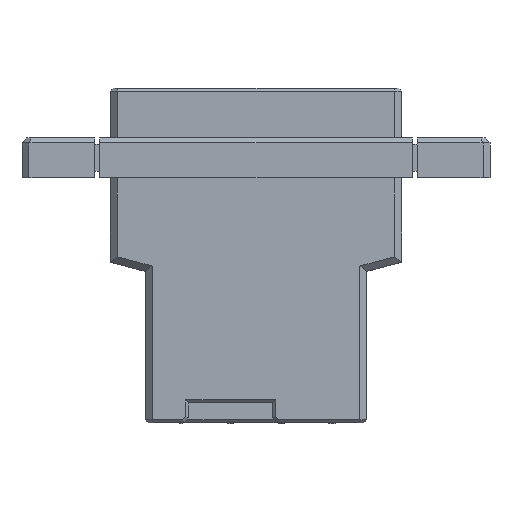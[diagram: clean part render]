
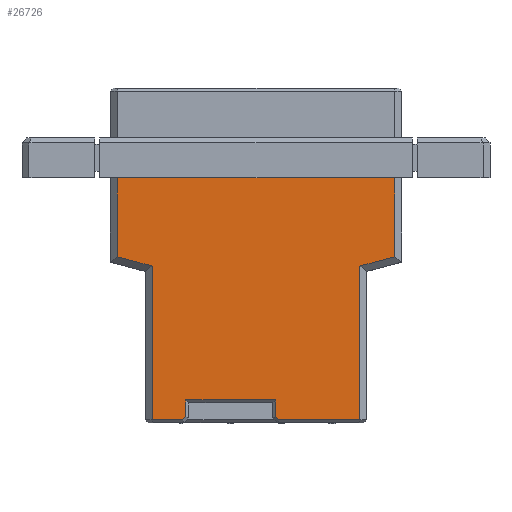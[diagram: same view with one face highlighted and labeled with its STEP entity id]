
A CAD part, front view. The second image highlights one B-rep face of the part: STEP entity #26726.
In plain terms, the highlighted planar face has unit normal (0, -1, 0).
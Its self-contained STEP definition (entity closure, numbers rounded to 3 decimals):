
#699 = CARTESIAN_POINT ( 'NONE',  ( -14.204, -4.675, -16.849 ) ) ;
#815 = EDGE_CURVE ( 'NONE', #25401, #10830, #19533, .T. ) ;
#1288 = VERTEX_POINT ( 'NONE', #19937 ) ;
#1337 = CARTESIAN_POINT ( 'NONE',  ( -10.42, -4.675, -18.4 ) ) ;
#2030 = EDGE_CURVE ( 'NONE', #15278, #25401, #18515, .T. ) ;
#2164 = VECTOR ( 'NONE', #12854, 1000. ) ;
#2197 = DIRECTION ( 'NONE',  ( 0., 0., 1. ) ) ;
#2222 = AXIS2_PLACEMENT_3D ( 'NONE', #5134, #19659, #21662 ) ;
#3104 = DIRECTION ( 'NONE',  ( 0., 0., -1. ) ) ;
#3231 = CARTESIAN_POINT ( 'NONE',  ( -7.04, -4.675, -32.976 ) ) ;
#3316 = VECTOR ( 'NONE', #26804, 1000. ) ;
#3510 = FACE_OUTER_BOUND ( 'NONE', #5288, .T. ) ;
#3516 = VECTOR ( 'NONE', #10647, 1000. ) ;
#3762 = LINE ( 'NONE', #22439, #12900 ) ;
#4268 = CARTESIAN_POINT ( 'NONE',  ( -14.62, -4.675, -33.3 ) ) ;
#4478 = EDGE_CURVE ( 'NONE', #8110, #15278, #15799, .T. ) ;
#4481 = ORIENTED_EDGE ( 'NONE', *, *, #4887, .T. ) ;
#4578 = ORIENTED_EDGE ( 'NONE', *, *, #12204, .T. ) ;
#4887 = EDGE_CURVE ( 'NONE', #12415, #21088, #3762, .T. ) ;
#5134 = CARTESIAN_POINT ( 'NONE',  ( -14.62, -4.675, -18.4 ) ) ;
#5258 = DIRECTION ( 'NONE',  ( 1., 0., 0. ) ) ;
#5288 = EDGE_LOOP ( 'NONE', ( #12123, #21274, #19060, #21160, #25429, #6246, #24020, #4578, #8953, #15584, #11922, #4481, #12570, #13478 ) ) ;
#5322 = VERTEX_POINT ( 'NONE', #22407 ) ;
#5840 = DIRECTION ( 'NONE',  ( -1., 0., 0. ) ) ;
#5987 = CARTESIAN_POINT ( 'NONE',  ( -10.42, -4.675, -33.3 ) ) ;
#6246 = ORIENTED_EDGE ( 'NONE', *, *, #20722, .T. ) ;
#6362 = VERTEX_POINT ( 'NONE', #14807 ) ;
#7032 = VERTEX_POINT ( 'NONE', #15571 ) ;
#7505 = CARTESIAN_POINT ( 'NONE',  ( 10.42, -4.675, -18.4 ) ) ;
#7622 = VECTOR ( 'NONE', #19413, 1000. ) ;
#7662 = EDGE_CURVE ( 'NONE', #19099, #12415, #11818, .T. ) ;
#7810 = CARTESIAN_POINT ( 'NONE',  ( 10.42, -4.675, -17.863 ) ) ;
#7971 = EDGE_CURVE ( 'NONE', #7995, #19099, #19581, .T. ) ;
#7995 = VERTEX_POINT ( 'NONE', #7810 ) ;
#8047 = EDGE_CURVE ( 'NONE', #1288, #8110, #24409, .T. ) ;
#8110 = VERTEX_POINT ( 'NONE', #5987 ) ;
#8703 = LINE ( 'NONE', #24199, #19064 ) ;
#8953 = ORIENTED_EDGE ( 'NONE', *, *, #20152, .T. ) ;
#9398 = VERTEX_POINT ( 'NONE', #23328 ) ;
#10377 = LINE ( 'NONE', #7505, #12627 ) ;
#10647 = DIRECTION ( 'NONE',  ( 1., 0., 0. ) ) ;
#10830 = VERTEX_POINT ( 'NONE', #25305 ) ;
#11165 = PLANE ( 'NONE',  #2222 ) ;
#11288 = CARTESIAN_POINT ( 'NONE',  ( -6.952, -4.675, -32.888 ) ) ;
#11526 = CARTESIAN_POINT ( 'NONE',  ( 13.92, -4.675, -9. ) ) ;
#11818 = LINE ( 'NONE', #20892, #26038 ) ;
#11922 = ORIENTED_EDGE ( 'NONE', *, *, #7662, .T. ) ;
#12123 = ORIENTED_EDGE ( 'NONE', *, *, #8047, .T. ) ;
#12204 = EDGE_CURVE ( 'NONE', #20929, #6362, #23620, .T. ) ;
#12415 = VERTEX_POINT ( 'NONE', #11526 ) ;
#12570 = ORIENTED_EDGE ( 'NONE', *, *, #15737, .T. ) ;
#12627 = VECTOR ( 'NONE', #17633, 1000. ) ;
#12854 = DIRECTION ( 'NONE',  ( 1., 0., 0. ) ) ;
#12900 = VECTOR ( 'NONE', #5840, 1000. ) ;
#13450 = VECTOR ( 'NONE', #5258, 1000. ) ;
#13478 = ORIENTED_EDGE ( 'NONE', *, *, #22970, .T. ) ;
#13901 = CARTESIAN_POINT ( 'NONE',  ( -13.077, -4.675, -24.159 ) ) ;
#14020 = CARTESIAN_POINT ( 'NONE',  ( 13.92, -4.675, -16.925 ) ) ;
#14807 = CARTESIAN_POINT ( 'NONE',  ( 10.42, -4.675, -33.3 ) ) ;
#15219 = CARTESIAN_POINT ( 'NONE',  ( 2.284, -4.675, -33.3 ) ) ;
#15278 = VERTEX_POINT ( 'NONE', #20304 ) ;
#15550 = CARTESIAN_POINT ( 'NONE',  ( -13.92, -4.675, -18.4 ) ) ;
#15571 = CARTESIAN_POINT ( 'NONE',  ( 1.96, -4.675, -31.3 ) ) ;
#15584 = ORIENTED_EDGE ( 'NONE', *, *, #7971, .T. ) ;
#15607 = CARTESIAN_POINT ( 'NONE',  ( -14.62, -4.675, -31.3 ) ) ;
#15626 = EDGE_CURVE ( 'NONE', #9398, #20929, #17675, .T. ) ;
#15737 = EDGE_CURVE ( 'NONE', #21088, #5322, #22877, .T. ) ;
#15799 = LINE ( 'NONE', #17263, #2164 ) ;
#15934 = CARTESIAN_POINT ( 'NONE',  ( -13.92, -4.675, -9. ) ) ;
#16236 = EDGE_CURVE ( 'NONE', #10830, #7032, #17970, .T. ) ;
#16340 = VECTOR ( 'NONE', #22127, 1000. ) ;
#17020 = VECTOR ( 'NONE', #20733, 1000. ) ;
#17263 = CARTESIAN_POINT ( 'NONE',  ( -14.62, -4.675, -33.3 ) ) ;
#17633 = DIRECTION ( 'NONE',  ( 0., 0., 1. ) ) ;
#17675 = LINE ( 'NONE', #17910, #17020 ) ;
#17910 = CARTESIAN_POINT ( 'NONE',  ( 2.372, -4.675, -33.388 ) ) ;
#17970 = LINE ( 'NONE', #15607, #13450 ) ;
#18320 = VECTOR ( 'NONE', #3104, 1000. ) ;
#18515 = LINE ( 'NONE', #11288, #18846 ) ;
#18644 = LINE ( 'NONE', #699, #7622 ) ;
#18846 = VECTOR ( 'NONE', #19428, 1000. ) ;
#19060 = ORIENTED_EDGE ( 'NONE', *, *, #2030, .T. ) ;
#19064 = VECTOR ( 'NONE', #26523, 1000. ) ;
#19099 = VERTEX_POINT ( 'NONE', #14020 ) ;
#19413 = DIRECTION ( 'NONE',  ( 0.966, 0., -0.259 ) ) ;
#19428 = DIRECTION ( 'NONE',  ( 0.707, 0., 0.707 ) ) ;
#19533 = LINE ( 'NONE', #20235, #3316 ) ;
#19581 = LINE ( 'NONE', #13901, #20234 ) ;
#19659 = DIRECTION ( 'NONE',  ( 0., 1., 0. ) ) ;
#19937 = CARTESIAN_POINT ( 'NONE',  ( -10.42, -4.675, -17.863 ) ) ;
#20152 = EDGE_CURVE ( 'NONE', #6362, #7995, #10377, .T. ) ;
#20234 = VECTOR ( 'NONE', #24273, 1000. ) ;
#20235 = CARTESIAN_POINT ( 'NONE',  ( -7.04, -4.675, -18.4 ) ) ;
#20304 = CARTESIAN_POINT ( 'NONE',  ( -7.364, -4.675, -33.3 ) ) ;
#20722 = EDGE_CURVE ( 'NONE', #7032, #9398, #8703, .T. ) ;
#20733 = DIRECTION ( 'NONE',  ( 0.707, 0., -0.707 ) ) ;
#20892 = CARTESIAN_POINT ( 'NONE',  ( 13.92, -4.675, -18.4 ) ) ;
#20929 = VERTEX_POINT ( 'NONE', #15219 ) ;
#21088 = VERTEX_POINT ( 'NONE', #15934 ) ;
#21160 = ORIENTED_EDGE ( 'NONE', *, *, #815, .T. ) ;
#21274 = ORIENTED_EDGE ( 'NONE', *, *, #4478, .T. ) ;
#21662 = DIRECTION ( 'NONE',  ( 0., 0., 1. ) ) ;
#22127 = DIRECTION ( 'NONE',  ( 0., 0., -1. ) ) ;
#22407 = CARTESIAN_POINT ( 'NONE',  ( -13.92, -4.675, -16.925 ) ) ;
#22439 = CARTESIAN_POINT ( 'NONE',  ( -14.62, -4.675, -9. ) ) ;
#22877 = LINE ( 'NONE', #15550, #18320 ) ;
#22970 = EDGE_CURVE ( 'NONE', #5322, #1288, #18644, .T. ) ;
#23328 = CARTESIAN_POINT ( 'NONE',  ( 1.96, -4.675, -32.976 ) ) ;
#23620 = LINE ( 'NONE', #4268, #3516 ) ;
#24020 = ORIENTED_EDGE ( 'NONE', *, *, #15626, .T. ) ;
#24199 = CARTESIAN_POINT ( 'NONE',  ( 1.96, -4.675, -18.4 ) ) ;
#24273 = DIRECTION ( 'NONE',  ( 0.966, 0., 0.259 ) ) ;
#24409 = LINE ( 'NONE', #1337, #16340 ) ;
#25305 = CARTESIAN_POINT ( 'NONE',  ( -7.04, -4.675, -31.3 ) ) ;
#25401 = VERTEX_POINT ( 'NONE', #3231 ) ;
#25429 = ORIENTED_EDGE ( 'NONE', *, *, #16236, .T. ) ;
#26038 = VECTOR ( 'NONE', #2197, 1000. ) ;
#26523 = DIRECTION ( 'NONE',  ( 0., 0., -1. ) ) ;
#26726 = ADVANCED_FACE ( 'NONE', ( #3510 ), #11165, .F. ) ;
#26804 = DIRECTION ( 'NONE',  ( 0., 0., 1. ) ) ;
